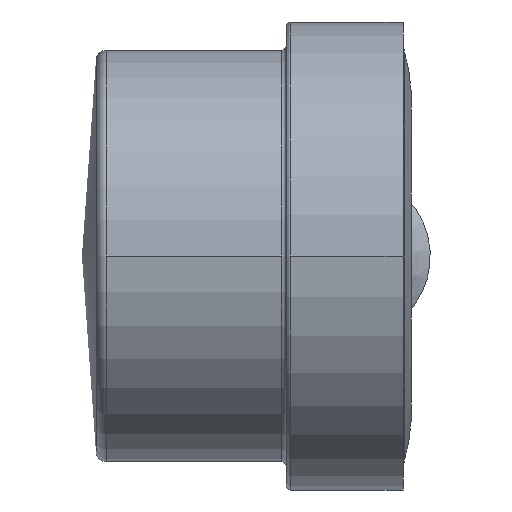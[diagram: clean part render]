
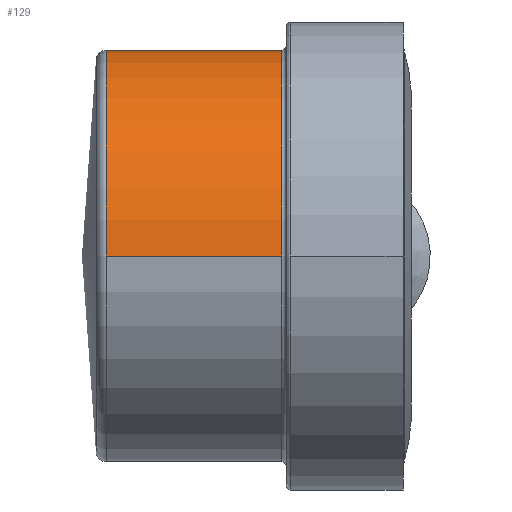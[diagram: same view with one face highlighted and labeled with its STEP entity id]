
A CAD part, left-side view. The second image highlights one B-rep face of the part: STEP entity #129.
In plain terms, the highlighted cylindrical face has radius 9.85 mm (diameter 19.7 mm), a partial arc.
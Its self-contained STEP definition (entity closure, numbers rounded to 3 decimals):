
#129=ADVANCED_FACE('',(#186),#187,.T.);
#186=FACE_OUTER_BOUND('',#326,.T.);
#187=CYLINDRICAL_SURFACE('',#327,9.85);
#326=EDGE_LOOP('',(#506,#507,#508,#509,#510,#511));
#327=AXIS2_PLACEMENT_3D('',#512,#513,#514);
#506=ORIENTED_EDGE('',*,*,#855,.F.);
#507=ORIENTED_EDGE('',*,*,#856,.F.);
#508=ORIENTED_EDGE('',*,*,#857,.F.);
#509=ORIENTED_EDGE('',*,*,#858,.F.);
#510=ORIENTED_EDGE('',*,*,#859,.F.);
#511=ORIENTED_EDGE('',*,*,#838,.F.);
#512=CARTESIAN_POINT('',(0.0,10.51,0.0));
#513=DIRECTION('',(0.0,-1.0,0.0));
#514=DIRECTION('',(1.0,0.0,0.0));
#838=EDGE_CURVE('',#963,#965,#966,.T.);
#855=EDGE_CURVE('',#997,#963,#998,.T.);
#856=EDGE_CURVE('',#999,#997,#1000,.T.);
#857=EDGE_CURVE('',#1001,#999,#1002,.T.);
#858=EDGE_CURVE('',#1003,#1001,#1004,.T.);
#859=EDGE_CURVE('',#965,#1003,#1005,.T.);
#963=VERTEX_POINT('',#1168);
#965=VERTEX_POINT('',#1170);
#966=CIRCLE('',#1171,9.85);
#997=VERTEX_POINT('',#1241);
#998=LINE('',#1242,#1243);
#999=VERTEX_POINT('',#1244);
#1000=CIRCLE('',#1245,9.85);
#1001=VERTEX_POINT('',#1246);
#1002=CIRCLE('',#1247,9.85);
#1003=VERTEX_POINT('',#1248);
#1004=LINE('',#1249,#1250);
#1005=CIRCLE('',#1251,9.85);
#1168=CARTESIAN_POINT('',(9.85,6.2,0.0));
#1170=CARTESIAN_POINT('',(0.,6.2,9.85));
#1171=AXIS2_PLACEMENT_3D('',#1459,#1460,#1461);
#1241=CARTESIAN_POINT('',(9.85,14.609,0.));
#1242=CARTESIAN_POINT('',(9.85,10.51,0.));
#1243=VECTOR('',#1498,1.0);
#1244=CARTESIAN_POINT('',(0.,14.609,9.85));
#1245=AXIS2_PLACEMENT_3D('',#1499,#1500,#1501);
#1246=CARTESIAN_POINT('',(-9.85,14.609,0.));
#1247=AXIS2_PLACEMENT_3D('',#1502,#1503,#1504);
#1248=CARTESIAN_POINT('',(-9.85,6.2,0.));
#1249=CARTESIAN_POINT('',(-9.85,10.51,0.));
#1250=VECTOR('',#1505,1.0);
#1251=AXIS2_PLACEMENT_3D('',#1506,#1507,#1508);
#1459=CARTESIAN_POINT('',(0.0,6.2,0.0));
#1460=DIRECTION('',(0.0,-1.0,0.0));
#1461=DIRECTION('',(-1.0,0.0,0.0));
#1498=DIRECTION('',(0.0,-1.0,0.0));
#1499=CARTESIAN_POINT('',(0.0,14.609,0.0));
#1500=DIRECTION('',(0.0,1.0,0.0));
#1501=DIRECTION('',(-1.0,0.0,0.0));
#1502=CARTESIAN_POINT('',(0.0,14.609,0.0));
#1503=DIRECTION('',(0.0,1.0,0.0));
#1504=DIRECTION('',(-1.0,0.0,0.0));
#1505=DIRECTION('',(0.0,1.0,0.0));
#1506=CARTESIAN_POINT('',(0.0,6.2,0.0));
#1507=DIRECTION('',(0.0,-1.0,0.0));
#1508=DIRECTION('',(-1.0,0.0,0.0));
